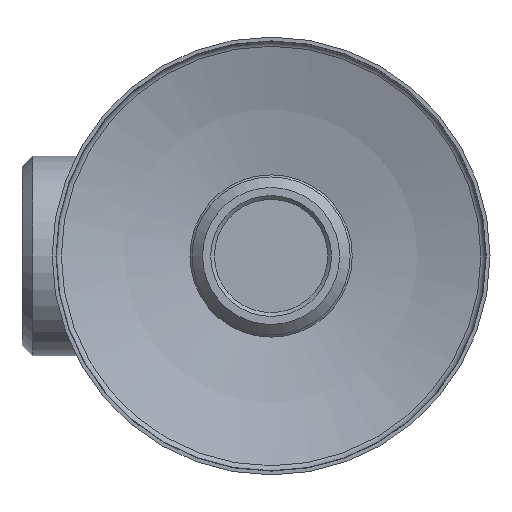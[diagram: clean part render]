
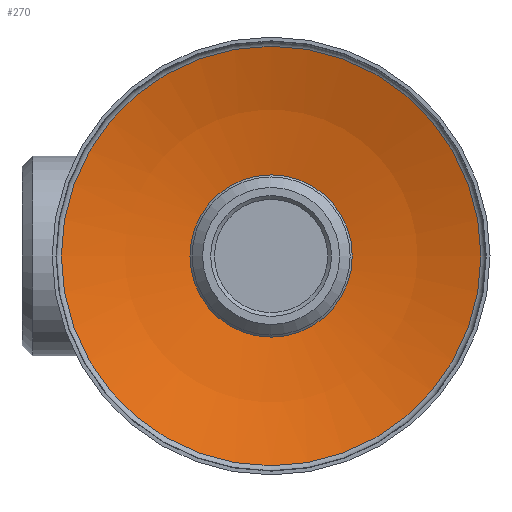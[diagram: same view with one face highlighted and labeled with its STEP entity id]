
A CAD part, front view. The second image highlights one B-rep face of the part: STEP entity #270.
In plain terms, the highlighted spherical face has radius 82.5 mm.
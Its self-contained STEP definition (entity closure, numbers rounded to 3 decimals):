
#270=ADVANCED_FACE('',(#2281,#2283),#2285,.F.);
#2281=FACE_BOUND('',#2282,.T.);
#2282=EDGE_LOOP('',(#3668,#3669));
#2283=FACE_OUTER_BOUND('',#2284,.T.);
#2284=EDGE_LOOP('',(#3670));
#2285=SPHERICAL_SURFACE('',#2286,82.5);
#2286=AXIS2_PLACEMENT_3D('',#2287,#2288,#2289);
#2287=CARTESIAN_POINT('',(0.,-102.836,0.));
#2288=DIRECTION('',(0.,1.,0.));
#2289=DIRECTION('',(0.,0.,1.));
#3668=ORIENTED_EDGE('',*,*,#4283,.T.);
#3669=ORIENTED_EDGE('',*,*,#4284,.T.);
#3670=ORIENTED_EDGE('',*,*,#4281,.F.);
#4281=EDGE_CURVE('',#5147,#5147,#5148,.T.);
#4283=EDGE_CURVE('',#5151,#5152,#5153,.T.);
#4284=EDGE_CURVE('',#5152,#5151,#5154,.T.);
#5147=VERTEX_POINT('',#10346);
#5148=CIRCLE('',#10347,27.794);
#5151=VERTEX_POINT('',#10356);
#5152=VERTEX_POINT('',#10357);
#5153=CIRCLE('',#10358,10.75);
#5154=CIRCLE('',#10362,10.75);
#10346=CARTESIAN_POINT('',(0.,-25.159,27.794));
#10347=AXIS2_PLACEMENT_3D('',#10348,#10349,#10350);
#10348=CARTESIAN_POINT('',(0.,-25.159,0.));
#10349=DIRECTION('',(0.,1.,0.));
#10350=DIRECTION('',(0.,0.,1.));
#10356=CARTESIAN_POINT('',(0.,-21.039,10.75));
#10357=CARTESIAN_POINT('',(-10.75,-21.039,0.));
#10358=AXIS2_PLACEMENT_3D('',#10359,#10360,#10361);
#10359=CARTESIAN_POINT('',(0.,-21.039,0.));
#10360=DIRECTION('',(0.,1.,0.));
#10361=DIRECTION('',(0.,0.,1.));
#10362=AXIS2_PLACEMENT_3D('',#10363,#10364,#10365);
#10363=CARTESIAN_POINT('',(0.,-21.039,0.));
#10364=DIRECTION('',(0.,1.,0.));
#10365=DIRECTION('',(-1.,0.,0.));
